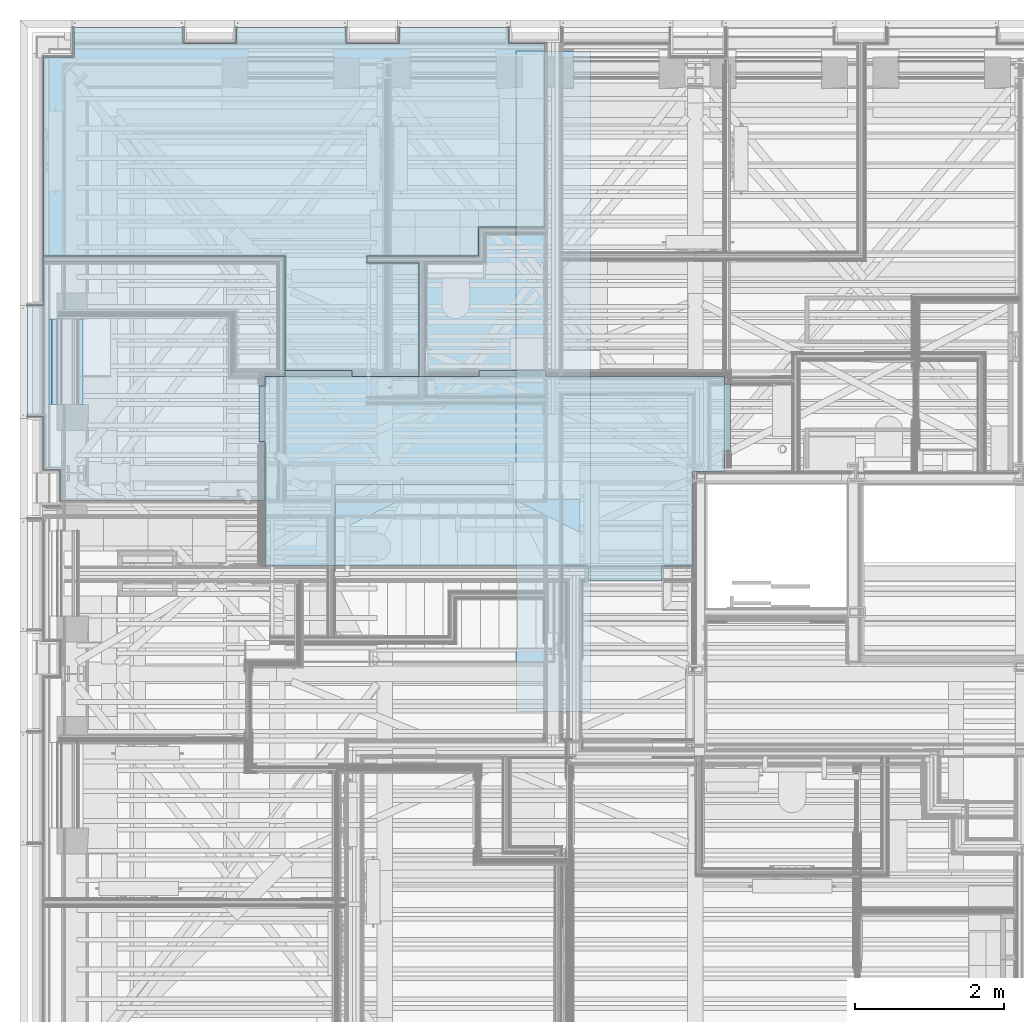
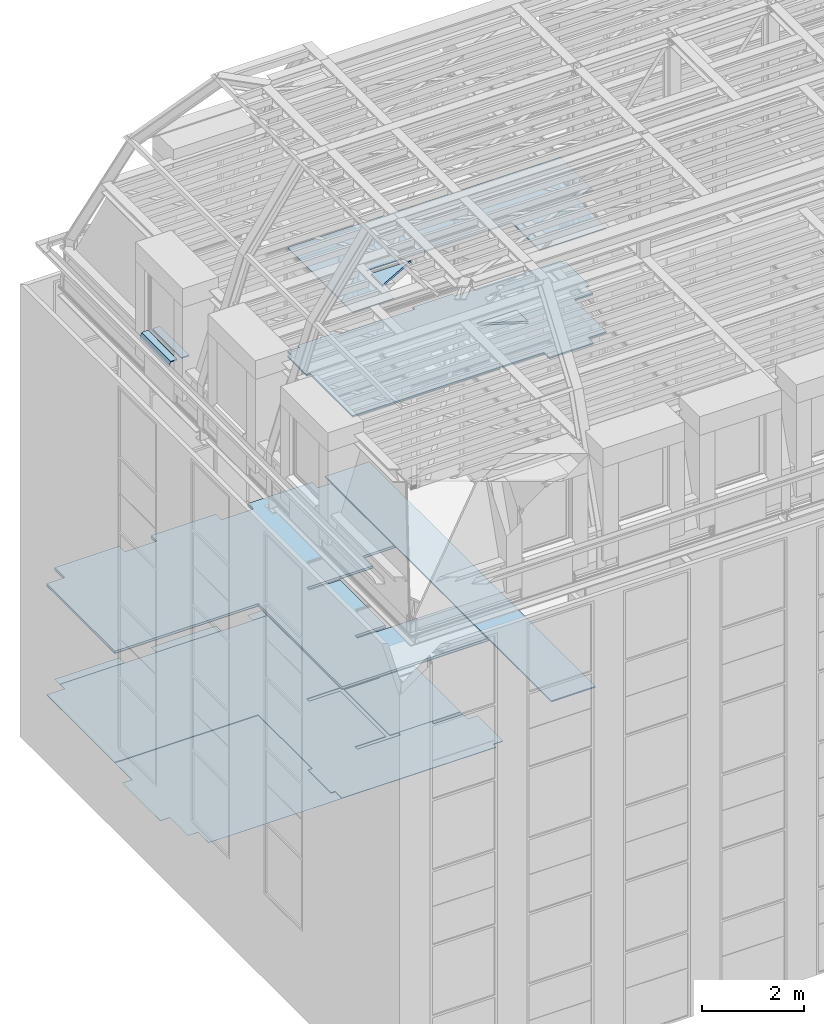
# One storey, part 87 of 183: 16 slabs.
"""IFC2X3 building model written with IfcOpenShell, lengths in metres."""

from ifc_helpers import new_model, entity, si_unit, converted_unit, derived_unit, money_unit, direction, frame, origin_with_axes, place, context, subcontext, project, spatial, faceted_brep, material, type_object, element, save


model = new_model("IFC2X3")

# Units and contexts
model_context = context("Model", 3, precision=1e-05, world=origin_with_axes(), true_north=direction((0.0, 1.0)))
body_context = subcontext(model_context, "Body", "Model", "MODEL_VIEW", scale=1.0)
ifc_project = project(units=[si_unit("LENGTHUNIT", "METRE"), si_unit("AREAUNIT", "SQUARE_METRE"), si_unit("VOLUMEUNIT", "CUBIC_METRE"), si_unit("ABSORBEDDOSEUNIT", "GRAY"), si_unit("AMOUNTOFSUBSTANCEUNIT", "MOLE"), si_unit("DOSEEQUIVALENTUNIT", "SIEVERT"), si_unit("ELECTRICCAPACITANCEUNIT", "FARAD"), si_unit("ELECTRICCHARGEUNIT", "COULOMB"), si_unit("ELECTRICCONDUCTANCEUNIT", "SIEMENS"), si_unit("ELECTRICCURRENTUNIT", "AMPERE"), si_unit("ELECTRICRESISTANCEUNIT", "OHM"), si_unit("ELECTRICVOLTAGEUNIT", "VOLT"), si_unit("ENERGYUNIT", "JOULE"), si_unit("FORCEUNIT", "NEWTON"), si_unit("FREQUENCYUNIT", "HERTZ"), si_unit("ILLUMINANCEUNIT", "LUX"), si_unit("INDUCTANCEUNIT", "HENRY"), si_unit("LUMINOUSFLUXUNIT", "LUMEN"), si_unit("LUMINOUSINTENSITYUNIT", "CANDELA"), si_unit("MAGNETICFLUXDENSITYUNIT", "TESLA"), si_unit("MAGNETICFLUXUNIT", "WEBER"), si_unit("MASSUNIT", "GRAM"), converted_unit("PLANEANGLEUNIT", "degree", entity("IfcReal", 0.0174532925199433), si_unit("PLANEANGLEUNIT", "RADIAN"), dimensions=[0, 0, 0, 0, 0, 0, 0]), si_unit("POWERUNIT", "WATT"), si_unit("PRESSUREUNIT", "PASCAL"), si_unit("RADIOACTIVITYUNIT", "BECQUEREL"), si_unit("SOLIDANGLEUNIT", "STERADIAN"), si_unit("THERMODYNAMICTEMPERATUREUNIT", "KELVIN"), si_unit("TIMEUNIT", "SECOND"), derived_unit("ACCELERATIONUNIT", [(si_unit("LENGTHUNIT", "METRE"), 1), (si_unit("TIMEUNIT", "SECOND"), -2)]), derived_unit("ANGULARVELOCITYUNIT", [(converted_unit("PLANEANGLEUNIT", "degree", entity("IfcReal", 0.0174532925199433), si_unit("PLANEANGLEUNIT", "RADIAN"), dimensions=[0, 0, 0, 0, 0, 0, 0]), 1), (si_unit("TIMEUNIT", "SECOND"), -1)]), derived_unit("CURVATUREUNIT", [(converted_unit("PLANEANGLEUNIT", "degree", entity("IfcReal", 0.0174532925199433), si_unit("PLANEANGLEUNIT", "RADIAN"), dimensions=[0, 0, 0, 0, 0, 0, 0]), 1), (si_unit("LENGTHUNIT", "METRE"), -1)]), derived_unit("DYNAMICVISCOSITYUNIT", [(si_unit("PRESSUREUNIT", "PASCAL"), 1), (si_unit("TIMEUNIT", "SECOND"), 1)]), derived_unit("HEATFLUXDENSITYUNIT", [(si_unit("POWERUNIT", "WATT"), 1), (si_unit("LENGTHUNIT", "METRE"), -2)]), derived_unit("HEATINGVALUEUNIT", [(si_unit("ENERGYUNIT", "JOULE"), 1), (si_unit("MASSUNIT", "GRAM"), -1)]), derived_unit("INTEGERCOUNTRATEUNIT", [(si_unit("TIMEUNIT", "SECOND"), -1)]), derived_unit("IONCONCENTRATIONUNIT", [(si_unit("MASSUNIT", "GRAM"), 1), (si_unit("VOLUMEUNIT", "CUBIC_METRE"), -1)]), derived_unit("ISOTHERMALMOISTURECAPACITYUNIT", [(si_unit("VOLUMEUNIT", "CUBIC_METRE"), 1), (si_unit("MASSUNIT", "GRAM"), -1)]), derived_unit("KINEMATICVISCOSITYUNIT", [(si_unit("AREAUNIT", "SQUARE_METRE"), 1), (si_unit("TIMEUNIT", "SECOND"), -1)]), derived_unit("LINEARFORCEUNIT", [(si_unit("FORCEUNIT", "NEWTON"), 1), (si_unit("LENGTHUNIT", "METRE"), -1)]), derived_unit("LINEARMOMENTUNIT", [(si_unit("FORCEUNIT", "NEWTON"), 1), (si_unit("LENGTHUNIT", "METRE"), -1)]), derived_unit("LINEARSTIFFNESSUNIT", [(si_unit("FORCEUNIT", "NEWTON"), 1), (si_unit("LENGTHUNIT", "METRE"), -1)]), derived_unit("LINEARVELOCITYUNIT", [(si_unit("LENGTHUNIT", "METRE"), 1), (si_unit("TIMEUNIT", "SECOND"), -1)]), derived_unit("LUMINOUSINTENSITYDISTRIBUTIONUNIT", [(si_unit("LUMINOUSINTENSITYUNIT", "CANDELA"), 1), (si_unit("LUMINOUSFLUXUNIT", "LUMEN"), -1)]), derived_unit("MASSDENSITYUNIT", [(si_unit("MASSUNIT", "GRAM"), 1), (si_unit("VOLUMEUNIT", "CUBIC_METRE"), -1)]), derived_unit("MASSFLOWRATEUNIT", [(si_unit("MASSUNIT", "GRAM"), 1), (si_unit("TIMEUNIT", "SECOND"), -1)]), derived_unit("MASSPERLENGTHUNIT", [(si_unit("MASSUNIT", "GRAM"), 1), (si_unit("LENGTHUNIT", "METRE"), -1)]), derived_unit("MODULUSOFELASTICITYUNIT", [(si_unit("FORCEUNIT", "NEWTON"), 1), (si_unit("AREAUNIT", "SQUARE_METRE"), -1)]), derived_unit("MODULUSOFLINEARSUBGRADEREACTIONUNIT", [(si_unit("FORCEUNIT", "NEWTON"), 1), (si_unit("LENGTHUNIT", "METRE"), -2)]), derived_unit("MODULUSOFROTATIONALSUBGRADEREACTIONUNIT", [(si_unit("FORCEUNIT", "NEWTON"), 1), (si_unit("LENGTHUNIT", "METRE"), 1)]), derived_unit("MODULUSOFSUBGRADEREACTIONUNIT", [(si_unit("FORCEUNIT", "NEWTON"), 1), (si_unit("VOLUMEUNIT", "CUBIC_METRE"), -1)]), derived_unit("MOISTUREDIFFUSIVITYUNIT", [(si_unit("VOLUMEUNIT", "CUBIC_METRE"), 1), (si_unit("TIMEUNIT", "SECOND"), -1)]), derived_unit("MOLECULARWEIGHTUNIT", [(si_unit("MASSUNIT", "GRAM"), 1), (si_unit("AMOUNTOFSUBSTANCEUNIT", "MOLE"), -1)]), derived_unit("PLANARFORCEUNIT", [(si_unit("FORCEUNIT", "NEWTON"), 1), (si_unit("LENGTHUNIT", "METRE"), -2)]), derived_unit("ROTATIONALFREQUENCYUNIT", [(si_unit("TIMEUNIT", "SECOND"), -1)]), derived_unit("ROTATIONALMASSUNIT", [(si_unit("MASSUNIT", "GRAM"), 1), (si_unit("LENGTHUNIT", "METRE"), 2)]), derived_unit("ROTATIONALSTIFFNESSUNIT", [(si_unit("FORCEUNIT", "NEWTON"), 1), (si_unit("LENGTHUNIT", "METRE"), 1), (converted_unit("PLANEANGLEUNIT", "degree", entity("IfcReal", 0.0174532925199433), si_unit("PLANEANGLEUNIT", "RADIAN"), dimensions=[0, 0, 0, 0, 0, 0, 0]), -1)]), derived_unit("SECTIONAREAINTEGRALUNIT", [(si_unit("LENGTHUNIT", "METRE"), 5)]), derived_unit("SECTIONMODULUSUNIT", [(si_unit("LENGTHUNIT", "METRE"), 3)]), derived_unit("SHEARMODULUSUNIT", [(si_unit("FORCEUNIT", "NEWTON"), 1), (si_unit("AREAUNIT", "SQUARE_METRE"), -1)]), derived_unit("SOUNDPOWERUNIT", [(si_unit("ENERGYUNIT", "JOULE"), 1), (si_unit("TIMEUNIT", "SECOND"), -1)]), derived_unit("SPECIFICHEATCAPACITYUNIT", [(si_unit("FORCEUNIT", "NEWTON"), 1), (si_unit("MASSUNIT", "GRAM"), -1), (si_unit("THERMODYNAMICTEMPERATUREUNIT", "KELVIN"), -1)]), derived_unit("TEMPERATUREGRADIENTUNIT", [(si_unit("THERMODYNAMICTEMPERATUREUNIT", "KELVIN"), 1), (si_unit("LENGTHUNIT", "METRE"), -1)]), derived_unit("THERMALADMITTANCEUNIT", [(si_unit("POWERUNIT", "WATT"), 1), (si_unit("AREAUNIT", "SQUARE_METRE"), -1), (si_unit("THERMODYNAMICTEMPERATUREUNIT", "KELVIN"), -1)]), derived_unit("THERMALCONDUCTANCEUNIT", [(si_unit("POWERUNIT", "WATT"), 1), (si_unit("LENGTHUNIT", "METRE"), -1), (si_unit("THERMODYNAMICTEMPERATUREUNIT", "KELVIN"), -1)]), derived_unit("THERMALEXPANSIONCOEFFICIENTUNIT", [(si_unit("THERMODYNAMICTEMPERATUREUNIT", "KELVIN"), -1)]), derived_unit("THERMALRESISTANCEUNIT", [(si_unit("AREAUNIT", "SQUARE_METRE"), 1), (si_unit("POWERUNIT", "WATT"), -1)]), derived_unit("THERMALTRANSMITTANCEUNIT", [(si_unit("POWERUNIT", "WATT"), 1), (si_unit("AREAUNIT", "SQUARE_METRE"), -1), (si_unit("THERMODYNAMICTEMPERATUREUNIT", "KELVIN"), -1)]), derived_unit("TORQUEUNIT", [(si_unit("FORCEUNIT", "NEWTON"), 1), (si_unit("LENGTHUNIT", "METRE"), 1)]), derived_unit("VAPORPERMEABILITYUNIT", [(si_unit("MASSUNIT", "GRAM"), 1), (si_unit("TIMEUNIT", "SECOND"), -1)]), derived_unit("VOLUMETRICFLOWRATEUNIT", [(si_unit("VOLUMEUNIT", "CUBIC_METRE"), 1), (si_unit("TIMEUNIT", "SECOND"), -1)]), derived_unit("WARPINGCONSTANTUNIT", [(si_unit("LENGTHUNIT", "METRE"), 6)]), derived_unit("WARPINGMOMENTUNIT", [(si_unit("FORCEUNIT", "NEWTON"), 1), (si_unit("LENGTHUNIT", "METRE"), 2)]), money_unit("GBP")], contexts=[model_context])

# Site, building, storey
site_placement = place(None, origin_with_axes())
site = spatial("IfcSite", under=ifc_project, at=site_placement, Name="Site", CompositionType="ELEMENT")
building_placement = place(site_placement, origin_with_axes())
building = spatial("IfcBuilding", under=site, at=building_placement, Name="Building01", CompositionType="ELEMENT")
storey_placement = place(building_placement, frame((0.0, 0.0, 5.15), z_axis=(0.0, 0.0, 1.0), x_axis=(1.0, 0.0, 0.0)))
storey = spatial("IfcBuildingStorey", under=building, at=storey_placement, Name="1F", CompositionType="ELEMENT", Elevation=5.15)

# Slabs
ifc_material_1 = material(Name="A_BSUK_ExpandedPolystyreneBoards")
slab_type_1 = type_object("IfcSlabType", Name="A-FloorsSlabs A_BSUK_Slabs", PredefinedType="FLOOR")
placement = place(storey_placement, frame((0.0, 0.0, -5.15), z_axis=(0.0, 0.0, 1.0), x_axis=(1.0, 0.0, 0.0)))
element("IfcSlab", 1, at=placement, inside=storey, type_object=slab_type_1, material=ifc_material_1, Name="A-FloorsSlabs A_BSUK_Slabs", ObjectType="CompoundSlabLeaf", context=body_context, shape_type="Brep", body=[
    faceted_brep([(0.725, 14.402, 5.15), (0.725, 14.402, 5.153), (0.725, 14.8, 5.153), (0.725, 14.8, 5.15), (0.318, 14.402, 5.15), (0.318, 14.402, 5.153), (0.318, 11.055, 5.15), (0.318, 11.055, 5.153), (0.1, 11.055, 5.15), (0.1, 11.055, 5.153), (0.1, 9.56218, 5.15), (0.1, 9.56218, 5.153), (0.318, 9.56218, 5.15), (0.318, 9.56218, 5.153), (0.318, 8.848, 5.15), (0.318, 8.848, 5.153), (0.548, 8.848, 5.15), (0.548, 8.848, 5.153), (0.548, 8.43567, 5.15), (0.548, 8.43567, 5.153), (7.064669, 8.43567, 5.15), (7.064669, 8.43567, 5.153), (7.064669, 8.550704, 5.15), (7.064669, 8.550704, 5.153), (7.289669, 8.550704, 5.15), (7.289669, 8.550704, 5.153), (7.289669, 9.550704, 5.15), (7.289669, 9.550704, 5.153), (7.064669, 9.550704, 5.15), (7.064669, 9.550704, 5.153), (7.064669, 14.582, 5.15), (7.064669, 14.582, 5.153), (6.574876, 14.582, 5.15), (6.574876, 14.582, 5.153), (6.574876, 14.8, 5.15), (6.574876, 14.8, 5.153), (5.105, 14.8, 5.15), (5.105, 14.8, 5.153), (5.105, 14.582, 5.15), (5.105, 14.582, 5.153), (4.385, 14.582, 5.15), (4.385, 14.582, 5.153), (4.385, 14.8, 5.15), (4.385, 14.8, 5.153), (2.915, 14.8, 5.15), (2.915, 14.8, 5.153), (2.915, 14.582, 5.15), (2.915, 14.582, 5.153), (2.195, 14.582, 5.15), (2.195, 14.582, 5.153), (2.195, 14.8, 5.15), (2.195, 14.8, 5.153)], [[[0, 1, 2, 3]], [[4, 5, 1, 0]], [[6, 7, 5, 4]], [[8, 9, 7, 6]], [[10, 11, 9, 8]], [[12, 13, 11, 10]], [[14, 15, 13, 12]], [[16, 17, 15, 14]], [[18, 19, 17, 16]], [[20, 21, 19, 18]], [[22, 23, 21, 20]], [[24, 25, 23, 22]], [[26, 27, 25, 24]], [[28, 29, 27, 26]], [[30, 31, 29, 28]], [[32, 33, 31, 30]], [[34, 35, 33, 32]], [[36, 37, 35, 34]], [[38, 39, 37, 36]], [[40, 41, 39, 38]], [[42, 43, 41, 40]], [[44, 45, 43, 42]], [[46, 47, 45, 44]], [[48, 49, 47, 46]], [[50, 51, 49, 48]], [[3, 2, 51, 50]], [[1, 5, 7, 9, 11, 13, 15, 17, 19, 21, 23, 25, 27, 29, 31, 33, 35, 37, 39, 41, 43, 45, 47, 49, 51, 2]], [[3, 50, 48, 46, 44, 42, 40, 38, 36, 34, 32, 30, 28, 26, 24, 22, 20, 18, 16, 14, 12, 10, 8, 6, 4, 0]]]),
])
ifc_material_2 = material(Name="A_BSUK_Parquet_Floor")
element("IfcSlab", 2, at=placement, inside=storey, type_object=slab_type_1, material=ifc_material_2, Name="A-FloorsSlabs A_BSUK_Slabs", ObjectType="CompoundSlabLeaf", context=body_context, shape_type="Brep", body=[
    faceted_brep([(7.289669, 9.550704, 5.153), (7.289669, 9.550704, 5.165), (7.289669, 8.550704, 5.165), (7.289669, 8.550704, 5.153), (7.064669, 9.550704, 5.153), (7.064669, 9.550704, 5.165), (7.064669, 9.73567, 5.153), (7.064669, 9.73567, 5.165), (6.398669, 9.73567, 5.153), (6.398669, 9.73567, 5.165), (6.398669, 9.83067, 5.153), (6.398669, 9.83067, 5.165), (5.648669, 9.83067, 5.153), (5.648669, 9.83067, 5.165), (5.648669, 9.73567, 5.153), (5.648669, 9.73567, 5.165), (4.669669, 9.73567, 5.153), (4.669669, 9.73567, 5.165), (4.669669, 9.83067, 5.153), (4.669669, 9.83067, 5.165), (5.369669, 9.83067, 5.153), (5.369669, 9.83067, 5.165), (5.369669, 11.63067, 5.153), (5.369669, 11.63067, 5.165), (4.669669, 11.63067, 5.153), (4.669669, 11.63067, 5.165), (4.669669, 11.72567, 5.153), (4.669669, 11.72567, 5.165), (4.719669, 11.72567, 5.153), (4.719669, 11.72567, 5.165), (6.169669, 11.72567, 5.153), (6.169669, 11.72567, 5.165), (6.169669, 12.11067, 5.153), (6.169669, 12.11067, 5.165), (7.064669, 12.11067, 5.153), (7.064669, 12.11067, 5.165), (7.064669, 14.582, 5.153), (7.064669, 14.582, 5.165), (6.574876, 14.582, 5.153), (6.574876, 14.582, 5.165), (5.105, 14.582, 5.153), (5.105, 14.582, 5.165), (4.385, 14.582, 5.153), (4.385, 14.582, 5.165), (2.915, 14.582, 5.153), (2.915, 14.582, 5.165), (2.195, 14.582, 5.153), (2.195, 14.582, 5.165), (0.725, 14.582, 5.153), (0.725, 14.582, 5.165), (0.725, 14.402, 5.153), (0.725, 14.402, 5.165), (0.318, 14.402, 5.153), (0.318, 14.402, 5.165), (0.318, 11.72567, 5.153), (0.318, 11.72567, 5.165), (3.569669, 11.72567, 5.153), (3.569669, 11.72567, 5.165), (3.569669, 9.600704, 5.153), (3.569669, 9.600704, 5.165), (3.474669, 9.600704, 5.153), (3.474669, 9.600704, 5.165), (3.474669, 8.700704, 5.153), (3.474669, 8.700704, 5.165), (3.569669, 8.700704, 5.153), (3.569669, 8.700704, 5.165), (3.569669, 8.43567, 5.153), (3.569669, 8.43567, 5.165), (7.064669, 8.43567, 5.153), (7.064669, 8.43567, 5.165), (7.064669, 8.550704, 5.153), (7.064669, 8.550704, 5.165)], [[[0, 1, 2, 3]], [[4, 5, 1, 0]], [[6, 7, 5, 4]], [[8, 9, 7, 6]], [[10, 11, 9, 8]], [[12, 13, 11, 10]], [[14, 15, 13, 12]], [[16, 17, 15, 14]], [[18, 19, 17, 16]], [[20, 21, 19, 18]], [[22, 23, 21, 20]], [[24, 25, 23, 22]], [[26, 27, 25, 24]], [[28, 29, 27, 26]], [[30, 31, 29, 28]], [[32, 33, 31, 30]], [[34, 35, 33, 32]], [[36, 37, 35, 34]], [[38, 39, 37, 36]], [[40, 41, 39, 38]], [[42, 43, 41, 40]], [[44, 45, 43, 42]], [[46, 47, 45, 44]], [[48, 49, 47, 46]], [[50, 51, 49, 48]], [[52, 53, 51, 50]], [[54, 55, 53, 52]], [[56, 57, 55, 54]], [[58, 59, 57, 56]], [[60, 61, 59, 58]], [[62, 63, 61, 60]], [[64, 65, 63, 62]], [[66, 67, 65, 64]], [[68, 69, 67, 66]], [[70, 71, 69, 68]], [[3, 2, 71, 70]], [[1, 5, 7, 9, 11, 13, 15, 17, 19, 21, 23, 25, 27, 29, 31, 33, 35, 37, 39, 41, 43, 45, 47, 49, 51, 53, 55, 57, 59, 61, 63, 65, 67, 69, 71, 2]], [[3, 70, 68, 66, 64, 62, 60, 58, 56, 54, 52, 50, 48, 46, 44, 42, 40, 38, 36, 34, 32, 30, 28, 26, 24, 22, 20, 18, 16, 14, 12, 10, 8, 6, 4, 0]]]),
])
ifc_material_3 = material(Name="A_BSUK_Ceramic_FloorTiles")
element("IfcSlab", 3, at=placement, inside=storey, type_object=slab_type_1, material=ifc_material_3, Name="A-FloorsSlabs A_BSUK_Slabs", ObjectType="CompoundSlabLeaf", context=body_context, shape_type="Brep", body=[
    faceted_brep([(5.464669, 10.53067, 5.153), (5.464669, 10.53067, 5.165), (5.464669, 11.63067, 5.165), (5.464669, 11.63067, 5.153), (5.464669, 9.83067, 5.153), (5.464669, 9.83067, 5.165), (7.064669, 9.83067, 5.153), (7.064669, 9.83067, 5.165), (7.064669, 12.01567, 5.153), (7.064669, 12.01567, 5.165), (6.264669, 12.01567, 5.153), (6.264669, 12.01567, 5.165), (6.264669, 11.63067, 5.153), (6.264669, 11.63067, 5.165)], [[[0, 1, 2, 3]], [[4, 5, 1, 0]], [[6, 7, 5, 4]], [[8, 9, 7, 6]], [[10, 11, 9, 8]], [[12, 13, 11, 10]], [[3, 2, 13, 12]], [[1, 5, 7, 9, 11, 13, 2]], [[3, 12, 10, 8, 6, 4, 0]]]),
])
ifc_material_4 = material(Name="A_BSUK_CeilingSoffitFinishes_Suspended")
element("IfcSlab", 4, at=placement, inside=storey, type_object=slab_type_1, material=ifc_material_4, Name="A-FloorsSlabs A_BSUK_Slabs", ObjectType="CompoundSlabLeaf", context=body_context, shape_type="Brep", body=[
    faceted_brep([(4.669669, 9.73567, 7.765), (4.669669, 9.73567, 7.78), (7.064669, 9.73567, 7.78), (7.064669, 9.73567, 7.765), (4.669669, 9.83067, 7.765), (4.669669, 9.83067, 7.78), (5.369669, 9.83067, 7.765), (5.369669, 9.83067, 7.78), (5.369669, 11.63067, 7.765), (5.369669, 11.63067, 7.78), (4.669669, 11.63067, 7.765), (4.669669, 11.63067, 7.78), (4.669669, 11.72567, 7.765), (4.669669, 11.72567, 7.78), (6.169669, 11.72567, 7.765), (6.169669, 11.72567, 7.78), (6.169669, 12.11067, 7.765), (6.169669, 12.11067, 7.78), (7.064669, 12.11067, 7.765), (7.064669, 12.11067, 7.78), (7.064669, 14.582, 7.765), (7.064669, 14.582, 7.78), (6.574876, 14.582, 7.765), (6.574876, 14.582, 7.78), (6.574876, 14.8, 7.765), (6.574876, 14.8, 7.78), (5.105, 14.8, 7.765), (5.105, 14.8, 7.78), (5.105, 14.582, 7.765), (5.105, 14.582, 7.78), (4.385, 14.582, 7.765), (4.385, 14.582, 7.78), (4.385, 14.8, 7.765), (4.385, 14.8, 7.78), (2.915, 14.8, 7.765), (2.915, 14.8, 7.78), (2.915, 14.582, 7.765), (2.915, 14.582, 7.78), (2.195, 14.582, 7.765), (2.195, 14.582, 7.78), (2.195, 14.8, 7.765), (2.195, 14.8, 7.78), (0.725, 14.8, 7.765), (0.725, 14.8, 7.78), (0.725, 14.402, 7.765), (0.725, 14.402, 7.78), (0.318, 14.402, 7.765), (0.318, 14.402, 7.78), (0.318, 11.72567, 7.765), (0.318, 11.72567, 7.78), (3.569669, 11.72567, 7.765), (3.569669, 11.72567, 7.78), (3.569669, 8.43567, 7.765), (3.569669, 8.43567, 7.78), (7.064669, 8.43567, 7.765), (7.064669, 8.43567, 7.78)], [[[0, 1, 2, 3]], [[4, 5, 1, 0]], [[6, 7, 5, 4]], [[8, 9, 7, 6]], [[10, 11, 9, 8]], [[12, 13, 11, 10]], [[14, 15, 13, 12]], [[16, 17, 15, 14]], [[18, 19, 17, 16]], [[20, 21, 19, 18]], [[22, 23, 21, 20]], [[24, 25, 23, 22]], [[26, 27, 25, 24]], [[28, 29, 27, 26]], [[30, 31, 29, 28]], [[32, 33, 31, 30]], [[34, 35, 33, 32]], [[36, 37, 35, 34]], [[38, 39, 37, 36]], [[40, 41, 39, 38]], [[42, 43, 41, 40]], [[44, 45, 43, 42]], [[46, 47, 45, 44]], [[48, 49, 47, 46]], [[50, 51, 49, 48]], [[52, 53, 51, 50]], [[54, 55, 53, 52]], [[3, 2, 55, 54]], [[1, 5, 7, 9, 11, 13, 15, 17, 19, 21, 23, 25, 27, 29, 31, 33, 35, 37, 39, 41, 43, 45, 47, 49, 51, 53, 55, 2]], [[3, 54, 52, 50, 48, 46, 44, 42, 40, 38, 36, 34, 32, 30, 28, 26, 24, 22, 20, 18, 16, 14, 12, 10, 8, 6, 4, 0]]]),
])
element("IfcSlab", 5, at=placement, inside=storey, type_object=slab_type_1, material=ifc_material_4, Name="A-FloorsSlabs A_BSUK_Slabs", ObjectType="CompoundSlabLeaf", context=body_context, shape_type="Brep", body=[
    faceted_brep([(6.677169, 5.593, 8.115), (6.677169, 5.593, 8.13), (6.677169, 14.48, 8.13), (6.677169, 14.48, 8.115), (7.677169, 5.593, 8.115), (7.677169, 5.593, 8.13), (7.677169, 14.48, 8.115), (7.677169, 14.48, 8.13)], [[[0, 1, 2, 3]], [[4, 5, 1, 0]], [[6, 7, 5, 4]], [[3, 2, 7, 6]], [[1, 5, 7, 2]], [[3, 6, 4, 0]]]),
])
element("IfcSlab", 6, at=placement, inside=storey, type_object=slab_type_1, material=ifc_material_4, Name="A-FloorsSlabs A_BSUK_Slabs", ObjectType="CompoundSlabLeaf", context=body_context, shape_type="Brep", body=[
    faceted_brep([(6.677169, 5.593, 8.1), (6.677169, 5.593, 8.115), (6.677169, 14.48, 8.115), (6.677169, 14.48, 8.1), (7.677169, 5.593, 8.1), (7.677169, 5.593, 8.115), (7.677169, 14.48, 8.1), (7.677169, 14.48, 8.115)], [[[0, 1, 2, 3]], [[4, 5, 1, 0]], [[6, 7, 5, 4]], [[3, 2, 7, 6]], [[1, 5, 7, 2]], [[3, 6, 4, 0]]]),
])
ifc_material_5 = material(Name="A_BSUK_Timber_Miscellaneous")
slab_7_placement = place(storey_placement, frame((0.575339, 10.874915, 10.78), z_axis=(0.0, 0.0, 1.0), x_axis=(0.0, 1.0, 0.0)))
element("IfcSlab", 7, at=slab_7_placement, inside=storey, type_object=slab_type_1, material=ifc_material_5, Name="A-FloorsSlabs A_BSUK_Slabs", ObjectType="A-FloorsSlabs A_BSUK_Slabs", context=body_context, shape_type="Brep", body=[
    faceted_brep([(0.0, 0.0, 0.022498), (-1.15, 0.0, 0.022498), (-1.15, 0.0, 0.0), (0.0, 0.0, 0.0), (0.0, 0.142391, 0.017505), (-1.15, 0.142391, 0.017505), (0.0, 0.148079, 0.0), (-1.15, 0.148079, 0.0)], [[[0, 1, 2, 3]], [[4, 5, 1, 0]], [[6, 7, 5, 4]], [[3, 2, 7, 6]], [[1, 5, 7, 2]], [[3, 6, 4, 0]]]),
])
ifc_material_6 = material(Name="A_BSUK_Steel_Miscellaneous")
slab_8_placement = place(storey_placement, frame((0.575339, 10.874915, 10.802498), z_axis=(0.0, 0.0, 1.0), x_axis=(0.0, 1.0, 0.0)))
element("IfcSlab", 8, at=slab_8_placement, inside=storey, type_object=slab_type_1, material=ifc_material_6, Name="A-FloorsSlabs A_BSUK_Slabs", ObjectType="A-FloorsSlabs A_BSUK_Slabs", context=body_context, shape_type="Brep", body=[
    faceted_brep([(0.0, 0.0, 0.007502), (-1.15, 0.0, 0.007502), (-1.15, 0.0, 0.0), (0.0, 0.0, 0.0), (0.0, 0.001, 0.007502), (-1.15, 0.001, 0.007502), (0.0, 0.0025, 0.002414), (-1.15, 0.0025, 0.002414), (0.0, 0.144228, -0.002556), (-1.15, 0.144228, -0.002556), (0.0, 0.183199, -0.122498), (-1.15, 0.183199, -0.122498), (0.0, 0.183199, -0.127498), (-1.15, 0.183199, -0.127498), (0.0, 0.180699, -0.127498), (-1.15, 0.180699, -0.127498), (0.0, 0.180699, -0.122894), (-1.15, 0.180699, -0.122894), (0.0, 0.142391, -0.004993), (-1.15, 0.142391, -0.004993)], [[[0, 1, 2, 3]], [[4, 5, 1, 0]], [[6, 7, 5, 4]], [[8, 9, 7, 6]], [[10, 11, 9, 8]], [[12, 13, 11, 10]], [[14, 15, 13, 12]], [[16, 17, 15, 14]], [[18, 19, 17, 16]], [[3, 2, 19, 18]], [[1, 5, 7, 9, 11, 13, 15, 17, 19, 2]], [[3, 18, 16, 14, 12, 10, 8, 6, 4, 0]]]),
])
element("IfcSlab", 9, at=placement, inside=storey, type_object=slab_type_1, material=ifc_material_4, Name="A-FloorsSlabs A_BSUK_Slabs", ObjectType="CompoundSlabLeaf", context=body_context, shape_type="Brep", body=[
    faceted_brep([(3.3, 8.695061, 17.423), (3.3, 8.695061, 17.438), (3.3, 10.099939, 17.438), (3.3, 10.099939, 17.423), (3.3, 7.550061, 17.423), (3.3, 7.550061, 17.438), (4.24, 7.550061, 17.423), (4.24, 7.550061, 17.438), (4.24, 8.647427, 17.423), (4.24, 8.647427, 17.438), (7.54, 8.647427, 17.423), (7.54, 8.647427, 17.438), (7.54, 7.55, 17.423), (7.54, 7.55, 17.438), (9.06, 7.55, 17.423), (9.06, 7.55, 17.438), (9.06, 8.82, 17.423), (9.06, 8.82, 17.438), (9.480024, 8.82, 17.423), (9.480024, 8.82, 17.438), (9.480024, 10.099939, 17.423), (9.480024, 10.099939, 17.438)], [[[0, 1, 2, 3]], [[4, 5, 1, 0]], [[6, 7, 5, 4]], [[8, 9, 7, 6]], [[10, 11, 9, 8]], [[12, 13, 11, 10]], [[14, 15, 13, 12]], [[16, 17, 15, 14]], [[18, 19, 17, 16]], [[20, 21, 19, 18]], [[3, 2, 21, 20]], [[1, 5, 7, 9, 11, 13, 15, 17, 19, 21, 2]], [[3, 20, 18, 16, 14, 12, 10, 8, 6, 4, 0]]]),
])
element("IfcSlab", 10, at=placement, inside=storey, type_object=slab_type_1, material=ifc_material_1, Name="A-FloorsSlabs A_BSUK_Slabs", ObjectType="CompoundSlabLeaf", context=body_context, shape_type="Brep", body=[
    faceted_brep([(3.3, 9.974939, 14.92), (3.3, 9.974939, 14.952), (3.3, 10.099939, 14.952), (3.3, 10.099939, 14.92), (3.22, 9.974939, 14.92), (3.22, 9.974939, 14.952), (3.22, 9.224939, 14.92), (3.22, 9.224939, 14.952), (3.3, 9.224939, 14.92), (3.3, 9.224939, 14.952), (3.3, 8.695061, 14.92), (3.3, 8.695061, 14.952), (3.3, 7.550061, 14.92), (3.3, 7.550061, 14.952), (4.74, 7.550061, 14.92), (4.74, 7.550061, 14.952), (7.54, 7.550061, 14.92), (7.54, 7.550061, 14.952), (7.54, 7.55, 14.92), (7.54, 7.55, 14.952), (7.644, 7.55, 14.92), (7.644, 7.55, 14.952), (7.644, 7.349939, 14.92), (7.644, 7.349939, 14.952), (8.644, 7.349939, 14.92), (8.644, 7.349939, 14.952), (8.644, 7.55, 14.92), (8.644, 7.55, 14.952), (9.06, 7.55, 14.92), (9.06, 7.55, 14.952), (9.06, 8.82, 14.92), (9.06, 8.82, 14.952), (9.480024, 8.82, 14.92), (9.480024, 8.82, 14.952), (9.480024, 9.099939, 14.92), (9.480024, 9.099939, 14.952), (9.560024, 9.099939, 14.92), (9.560024, 9.099939, 14.952), (9.560024, 9.999939, 14.92), (9.560024, 9.999939, 14.952), (9.480024, 9.999939, 14.92), (9.480024, 9.999939, 14.952), (9.480024, 10.099939, 14.92), (9.480024, 10.099939, 14.952), (8.290024, 10.099939, 14.92), (8.290024, 10.099939, 14.952), (7.390024, 10.099939, 14.92), (7.390024, 10.099939, 14.952), (7.080024, 10.099939, 14.92), (7.080024, 10.099939, 14.952), (7.080024, 10.179939, 14.92), (7.080024, 10.179939, 14.952), (6.180024, 10.179939, 14.92), (6.180024, 10.179939, 14.952), (6.180024, 10.099939, 14.92), (6.180024, 10.099939, 14.952), (4.47, 10.099939, 14.92), (4.47, 10.099939, 14.952), (4.47, 10.179939, 14.92), (4.47, 10.179939, 14.952), (3.57, 10.179939, 14.92), (3.57, 10.179939, 14.952), (3.57, 10.099939, 14.92), (3.57, 10.099939, 14.952)], [[[0, 1, 2, 3]], [[4, 5, 1, 0]], [[6, 7, 5, 4]], [[8, 9, 7, 6]], [[10, 11, 9, 8]], [[12, 13, 11, 10]], [[14, 15, 13, 12]], [[16, 17, 15, 14]], [[18, 19, 17, 16]], [[20, 21, 19, 18]], [[22, 23, 21, 20]], [[24, 25, 23, 22]], [[26, 27, 25, 24]], [[28, 29, 27, 26]], [[30, 31, 29, 28]], [[32, 33, 31, 30]], [[34, 35, 33, 32]], [[36, 37, 35, 34]], [[38, 39, 37, 36]], [[40, 41, 39, 38]], [[42, 43, 41, 40]], [[44, 45, 43, 42]], [[46, 47, 45, 44]], [[48, 49, 47, 46]], [[50, 51, 49, 48]], [[52, 53, 51, 50]], [[54, 55, 53, 52]], [[56, 57, 55, 54]], [[58, 59, 57, 56]], [[60, 61, 59, 58]], [[62, 63, 61, 60]], [[3, 2, 63, 62]], [[1, 5, 7, 9, 11, 13, 15, 17, 19, 21, 23, 25, 27, 29, 31, 33, 35, 37, 39, 41, 43, 45, 47, 49, 51, 53, 55, 57, 59, 61, 63, 2]], [[3, 62, 60, 58, 56, 54, 52, 50, 48, 46, 44, 42, 40, 38, 36, 34, 32, 30, 28, 26, 24, 22, 20, 18, 16, 14, 12, 10, 8, 6, 4, 0]]]),
])
element("IfcSlab", 11, at=placement, inside=storey, type_object=slab_type_1, material=ifc_material_5, Name="A-FloorsSlabs A_BSUK_Slabs", ObjectType="CompoundSlabLeaf", context=body_context, shape_type="Brep", body=[
    faceted_brep([(0.849939, 9.724915, 15.93), (0.849939, 9.724915, 15.955), (0.675339, 9.724915, 15.955), (0.675339, 9.724915, 15.93), (0.849939, 10.874915, 15.93), (0.849939, 10.874915, 15.955), (0.675339, 10.874915, 15.93), (0.675339, 10.874915, 15.955)], [[[0, 1, 2, 3]], [[4, 5, 1, 0]], [[6, 7, 5, 4]], [[3, 2, 7, 6]], [[1, 5, 7, 2]], [[3, 6, 4, 0]]]),
])
element("IfcSlab", 12, at=placement, inside=storey, type_object=slab_type_1, material=ifc_material_4, Name="A-FloorsSlabs A_BSUK_Slabs", ObjectType="CompoundSlabLeaf", context=body_context, shape_type="Brep", body=[
    faceted_brep([(3.3, 8.695061, 17.438), (3.3, 8.695061, 17.453), (3.3, 10.099939, 17.453), (3.3, 10.099939, 17.438), (3.3, 7.550061, 17.438), (3.3, 7.550061, 17.453), (4.24, 7.550061, 17.438), (4.24, 7.550061, 17.453), (4.24, 8.647427, 17.438), (4.24, 8.647427, 17.453), (7.54, 8.647427, 17.438), (7.54, 8.647427, 17.453), (7.54, 7.55, 17.438), (7.54, 7.55, 17.453), (9.06, 7.55, 17.438), (9.06, 7.55, 17.453), (9.06, 8.82, 17.438), (9.06, 8.82, 17.453), (9.480024, 8.82, 17.438), (9.480024, 8.82, 17.453), (9.480024, 10.099939, 17.438), (9.480024, 10.099939, 17.453)], [[[0, 1, 2, 3]], [[4, 5, 1, 0]], [[6, 7, 5, 4]], [[8, 9, 7, 6]], [[10, 11, 9, 8]], [[12, 13, 11, 10]], [[14, 15, 13, 12]], [[16, 17, 15, 14]], [[18, 19, 17, 16]], [[20, 21, 19, 18]], [[3, 2, 21, 20]], [[1, 5, 7, 9, 11, 13, 15, 17, 19, 21, 2]], [[3, 20, 18, 16, 14, 12, 10, 8, 6, 4, 0]]]),
])
ifc_material_7 = material(Name="A_BSUK_Slabs")
element("IfcSlab", 13, at=placement, inside=storey, type_object=slab_type_1, material=ifc_material_7, Name="A-FloorsSlabs A_BSUK_Slabs", ObjectType="CompoundSlabLeaf", context=body_context, shape_type="Brep", body=[
    faceted_brep([(7.54, 7.999939, 15.42), (7.54, 7.999939, 15.47), (6.64, 8.449939, 15.47), (6.64, 8.449939, 15.42), (7.54, 8.449939, 15.42), (7.54, 8.449939, 15.47)], [[[0, 1, 2, 3]], [[4, 5, 1, 0]], [[3, 2, 5, 4]], [[1, 5, 2]], [[3, 4, 0]]]),
])
element("IfcSlab", 14, at=placement, inside=storey, type_object=slab_type_1, material=ifc_material_7, Name="A-FloorsSlabs A_BSUK_Slabs", ObjectType="CompoundSlabLeaf", context=body_context, shape_type="Brep", body=[
    faceted_brep([(4.24, 8.449939, 17.45), (4.24, 8.449939, 17.5), (5.14, 8.449939, 17.5), (5.14, 8.449939, 17.45), (4.24, 7.999939, 17.45), (4.24, 7.999939, 17.5)], [[[0, 1, 2, 3]], [[4, 5, 1, 0]], [[3, 2, 5, 4]], [[1, 5, 2]], [[3, 4, 0]]]),
])
slab_type_2 = type_object("IfcSlabType", Name="A-FloorsSlabs A_BSUK_ExpandedPolystyreneBoards", PredefinedType="FLOOR")
element("IfcSlab", 15, at=placement, inside=storey, type_object=slab_type_2, material=ifc_material_1, Name="A-FloorsSlabs A_BSUK_ExpandedPolystyreneBoards", ObjectType="CompoundSlabLeaf", context=body_context, shape_type="Brep", body=[
    faceted_brep([(4.669669, 9.73567, 7.78), (4.669669, 9.73567, 7.83), (7.064669, 9.73567, 7.83), (7.064669, 9.73567, 7.78), (4.669669, 9.83067, 7.78), (4.669669, 9.83067, 7.83), (5.369669, 9.83067, 7.78), (5.369669, 9.83067, 7.83), (5.369669, 11.63067, 7.78), (5.369669, 11.63067, 7.83), (4.669669, 11.63067, 7.78), (4.669669, 11.63067, 7.83), (4.669669, 11.72567, 7.78), (4.669669, 11.72567, 7.83), (6.169669, 11.72567, 7.78), (6.169669, 11.72567, 7.83), (6.169669, 12.11067, 7.78), (6.169669, 12.11067, 7.83), (7.064669, 12.11067, 7.78), (7.064669, 12.11067, 7.83), (7.064669, 14.582, 7.78), (7.064669, 14.582, 7.83), (6.574876, 14.582, 7.78), (6.574876, 14.582, 7.83), (6.574876, 14.8, 7.78), (6.574876, 14.8, 7.83), (5.105, 14.8, 7.78), (5.105, 14.8, 7.83), (5.105, 14.582, 7.78), (5.105, 14.582, 7.83), (4.385, 14.582, 7.78), (4.385, 14.582, 7.83), (4.385, 14.8, 7.78), (4.385, 14.8, 7.83), (2.915, 14.8, 7.78), (2.915, 14.8, 7.83), (2.915, 14.582, 7.78), (2.915, 14.582, 7.83), (2.195, 14.582, 7.78), (2.195, 14.582, 7.83), (2.195, 14.8, 7.78), (2.195, 14.8, 7.83), (0.725, 14.8, 7.78), (0.725, 14.8, 7.83), (0.725, 14.402, 7.78), (0.725, 14.402, 7.83), (0.318, 14.402, 7.78), (0.318, 14.402, 7.83), (0.318, 11.72567, 7.78), (0.318, 11.72567, 7.83), (3.569669, 11.72567, 7.78), (3.569669, 11.72567, 7.83), (3.569669, 8.43567, 7.78), (3.569669, 8.43567, 7.83), (7.064669, 8.43567, 7.78), (7.064669, 8.43567, 7.83)], [[[0, 1, 2, 3]], [[4, 5, 1, 0]], [[6, 7, 5, 4]], [[8, 9, 7, 6]], [[10, 11, 9, 8]], [[12, 13, 11, 10]], [[14, 15, 13, 12]], [[16, 17, 15, 14]], [[18, 19, 17, 16]], [[20, 21, 19, 18]], [[22, 23, 21, 20]], [[24, 25, 23, 22]], [[26, 27, 25, 24]], [[28, 29, 27, 26]], [[30, 31, 29, 28]], [[32, 33, 31, 30]], [[34, 35, 33, 32]], [[36, 37, 35, 34]], [[38, 39, 37, 36]], [[40, 41, 39, 38]], [[42, 43, 41, 40]], [[44, 45, 43, 42]], [[46, 47, 45, 44]], [[48, 49, 47, 46]], [[50, 51, 49, 48]], [[52, 53, 51, 50]], [[54, 55, 53, 52]], [[3, 2, 55, 54]], [[1, 5, 7, 9, 11, 13, 15, 17, 19, 21, 23, 25, 27, 29, 31, 33, 35, 37, 39, 41, 43, 45, 47, 49, 51, 53, 55, 2]], [[3, 54, 52, 50, 48, 46, 44, 42, 40, 38, 36, 34, 32, 30, 28, 26, 24, 22, 20, 18, 16, 14, 12, 10, 8, 6, 4, 0]]]),
])
ifc_material_8 = material(Name="A_BSUK_InternalFinishes_Floor")
slab_type_3 = type_object("IfcSlabType", Name="A-FloorsSlabs A_BSUK_InternalFinishes_FloorScreed", PredefinedType="FLOOR")
element("IfcSlab", 16, at=placement, inside=storey, type_object=slab_type_3, material=ifc_material_8, Name="A-FloorsSlabs A_BSUK_InternalFinishes_FloorScreed", ObjectType="CompoundSlabLeaf", context=body_context, shape_type="Brep", body=[
    faceted_brep([(3.3, 9.974939, 14.952), (3.3, 9.974939, 14.964), (3.3, 10.099939, 14.964), (3.3, 10.099939, 14.952), (3.22, 9.974939, 14.952), (3.22, 9.974939, 14.964), (3.22, 9.224939, 14.952), (3.22, 9.224939, 14.964), (3.3, 9.224939, 14.952), (3.3, 9.224939, 14.964), (3.3, 8.695061, 14.952), (3.3, 8.695061, 14.964), (3.3, 7.550061, 14.952), (3.3, 7.550061, 14.964), (4.74, 7.550061, 14.952), (4.74, 7.550061, 14.964), (7.54, 7.550061, 14.952), (7.54, 7.550061, 14.964), (7.54, 7.55, 14.952), (7.54, 7.55, 14.964), (7.644, 7.55, 14.952), (7.644, 7.55, 14.964), (7.644, 7.349939, 14.952), (7.644, 7.349939, 14.964), (8.644, 7.349939, 14.952), (8.644, 7.349939, 14.964), (8.644, 7.55, 14.952), (8.644, 7.55, 14.964), (9.06, 7.55, 14.952), (9.06, 7.55, 14.964), (9.06, 8.82, 14.952), (9.06, 8.82, 14.964), (9.480024, 8.82, 14.952), (9.480024, 8.82, 14.964), (9.480024, 9.099939, 14.952), (9.480024, 9.099939, 14.964), (9.560024, 9.099939, 14.952), (9.560024, 9.099939, 14.964), (9.560024, 9.999939, 14.952), (9.560024, 9.999939, 14.964), (9.480024, 9.999939, 14.952), (9.480024, 9.999939, 14.964), (9.480024, 10.099939, 14.952), (9.480024, 10.099939, 14.964), (8.290024, 10.099939, 14.952), (8.290024, 10.099939, 14.964), (7.390024, 10.099939, 14.952), (7.390024, 10.099939, 14.964), (7.080024, 10.099939, 14.952), (7.080024, 10.099939, 14.964), (7.080024, 10.179939, 14.952), (7.080024, 10.179939, 14.964), (6.180024, 10.179939, 14.952), (6.180024, 10.179939, 14.964), (6.180024, 10.099939, 14.952), (6.180024, 10.099939, 14.964), (4.47, 10.099939, 14.952), (4.47, 10.099939, 14.964), (4.47, 10.179939, 14.952), (4.47, 10.179939, 14.964), (3.57, 10.179939, 14.952), (3.57, 10.179939, 14.964), (3.57, 10.099939, 14.952), (3.57, 10.099939, 14.964)], [[[0, 1, 2, 3]], [[4, 5, 1, 0]], [[6, 7, 5, 4]], [[8, 9, 7, 6]], [[10, 11, 9, 8]], [[12, 13, 11, 10]], [[14, 15, 13, 12]], [[16, 17, 15, 14]], [[18, 19, 17, 16]], [[20, 21, 19, 18]], [[22, 23, 21, 20]], [[24, 25, 23, 22]], [[26, 27, 25, 24]], [[28, 29, 27, 26]], [[30, 31, 29, 28]], [[32, 33, 31, 30]], [[34, 35, 33, 32]], [[36, 37, 35, 34]], [[38, 39, 37, 36]], [[40, 41, 39, 38]], [[42, 43, 41, 40]], [[44, 45, 43, 42]], [[46, 47, 45, 44]], [[48, 49, 47, 46]], [[50, 51, 49, 48]], [[52, 53, 51, 50]], [[54, 55, 53, 52]], [[56, 57, 55, 54]], [[58, 59, 57, 56]], [[60, 61, 59, 58]], [[62, 63, 61, 60]], [[3, 2, 63, 62]], [[1, 5, 7, 9, 11, 13, 15, 17, 19, 21, 23, 25, 27, 29, 31, 33, 35, 37, 39, 41, 43, 45, 47, 49, 51, 53, 55, 57, 59, 61, 63, 2]], [[3, 62, 60, 58, 56, 54, 52, 50, 48, 46, 44, 42, 40, 38, 36, 34, 32, 30, 28, 26, 24, 22, 20, 18, 16, 14, 12, 10, 8, 6, 4, 0]]]),
])

save(model, "model.ifc")
